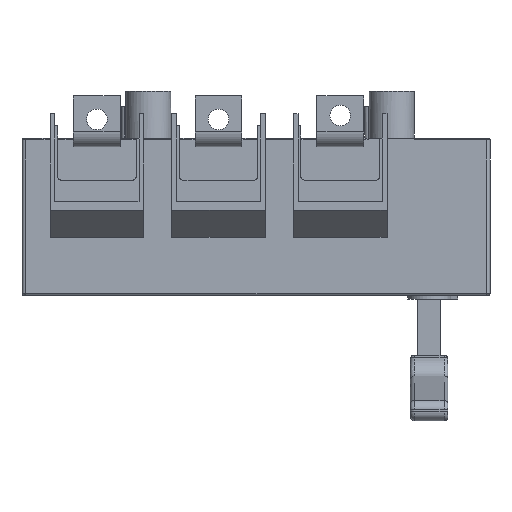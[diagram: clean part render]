
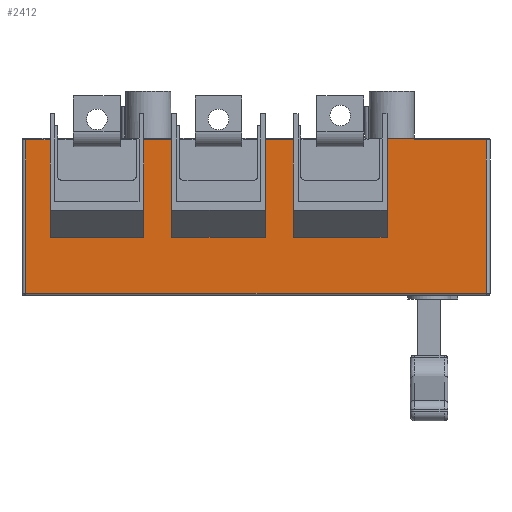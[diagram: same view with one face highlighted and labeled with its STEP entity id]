
A CAD part, front view. The second image highlights one B-rep face of the part: STEP entity #2412.
In plain terms, the highlighted planar face has unit normal (0, -1, 0).
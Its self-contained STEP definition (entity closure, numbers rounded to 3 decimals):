
#63=PLANE('',#8213);
#339=FACE_OUTER_BOUND('',#3114,.T.);
#698=LINE('',#11253,#1551);
#748=LINE('',#11389,#1601);
#785=LINE('',#11473,#1638);
#786=LINE('',#11476,#1639);
#787=LINE('',#11477,#1640);
#788=LINE('',#11479,#1641);
#789=LINE('',#11481,#1642);
#790=LINE('',#11483,#1643);
#791=LINE('',#11485,#1644);
#792=LINE('',#11487,#1645);
#793=LINE('',#11489,#1646);
#794=LINE('',#11491,#1647);
#795=LINE('',#11493,#1648);
#796=LINE('',#11495,#1649);
#797=LINE('',#11497,#1650);
#798=LINE('',#11499,#1651);
#799=LINE('',#11501,#1652);
#800=LINE('',#11502,#1653);
#1551=VECTOR('',#8927,1.);
#1601=VECTOR('',#9011,1.);
#1638=VECTOR('',#9070,1.);
#1639=VECTOR('',#9071,1.);
#1640=VECTOR('',#9072,1.);
#1641=VECTOR('',#9073,1.);
#1642=VECTOR('',#9074,1.);
#1643=VECTOR('',#9075,1.);
#1644=VECTOR('',#9076,1.);
#1645=VECTOR('',#9077,1.);
#1646=VECTOR('',#9078,1.);
#1647=VECTOR('',#9079,1.);
#1648=VECTOR('',#9080,1.);
#1649=VECTOR('',#9081,1.);
#1650=VECTOR('',#9082,1.);
#1651=VECTOR('',#9083,1.);
#1652=VECTOR('',#9084,1.);
#1653=VECTOR('',#9085,1.);
#2412=ADVANCED_FACE('',(#339),#63,.T.);
#3114=EDGE_LOOP('',(#3731,#3732,#3733,#3734,#3735,#3736,#3737,#3738,#3739,
#3740,#3741,#3742,#3743,#3744,#3745,#3746,#3747,#3748));
#3731=ORIENTED_EDGE('',*,*,#6808,.F.);
#3732=ORIENTED_EDGE('',*,*,#6809,.T.);
#3733=ORIENTED_EDGE('',*,*,#6765,.T.);
#3734=ORIENTED_EDGE('',*,*,#6810,.F.);
#3735=ORIENTED_EDGE('',*,*,#6811,.F.);
#3736=ORIENTED_EDGE('',*,*,#6812,.T.);
#3737=ORIENTED_EDGE('',*,*,#6813,.T.);
#3738=ORIENTED_EDGE('',*,*,#6814,.F.);
#3739=ORIENTED_EDGE('',*,*,#6815,.T.);
#3740=ORIENTED_EDGE('',*,*,#6816,.T.);
#3741=ORIENTED_EDGE('',*,*,#6817,.T.);
#3742=ORIENTED_EDGE('',*,*,#6818,.T.);
#3743=ORIENTED_EDGE('',*,*,#6819,.F.);
#3744=ORIENTED_EDGE('',*,*,#6820,.F.);
#3745=ORIENTED_EDGE('',*,*,#6821,.F.);
#3746=ORIENTED_EDGE('',*,*,#6822,.T.);
#3747=ORIENTED_EDGE('',*,*,#6703,.T.);
#3748=ORIENTED_EDGE('',*,*,#6823,.F.);
#5935=VERTEX_POINT('',#11252);
#5936=VERTEX_POINT('',#11254);
#5988=VERTEX_POINT('',#11388);
#5989=VERTEX_POINT('',#11390);
#6025=VERTEX_POINT('',#11474);
#6026=VERTEX_POINT('',#11475);
#6027=VERTEX_POINT('',#11478);
#6028=VERTEX_POINT('',#11480);
#6029=VERTEX_POINT('',#11482);
#6030=VERTEX_POINT('',#11484);
#6031=VERTEX_POINT('',#11486);
#6032=VERTEX_POINT('',#11488);
#6033=VERTEX_POINT('',#11490);
#6034=VERTEX_POINT('',#11492);
#6035=VERTEX_POINT('',#11494);
#6036=VERTEX_POINT('',#11496);
#6037=VERTEX_POINT('',#11498);
#6038=VERTEX_POINT('',#11500);
#6703=EDGE_CURVE('',#5936,#5935,#698,.T.);
#6765=EDGE_CURVE('',#5989,#5988,#748,.T.);
#6808=EDGE_CURVE('',#6025,#6026,#785,.T.);
#6809=EDGE_CURVE('',#6025,#5989,#786,.T.);
#6810=EDGE_CURVE('',#6027,#5988,#787,.T.);
#6811=EDGE_CURVE('',#6028,#6027,#788,.T.);
#6812=EDGE_CURVE('',#6028,#6029,#789,.T.);
#6813=EDGE_CURVE('',#6029,#6030,#790,.T.);
#6814=EDGE_CURVE('',#6031,#6030,#791,.T.);
#6815=EDGE_CURVE('',#6031,#6032,#792,.T.);
#6816=EDGE_CURVE('',#6032,#6033,#793,.T.);
#6817=EDGE_CURVE('',#6033,#6034,#794,.T.);
#6818=EDGE_CURVE('',#6034,#6035,#795,.T.);
#6819=EDGE_CURVE('',#6036,#6035,#796,.T.);
#6820=EDGE_CURVE('',#6037,#6036,#797,.T.);
#6821=EDGE_CURVE('',#6038,#6037,#798,.T.);
#6822=EDGE_CURVE('',#6038,#5936,#799,.T.);
#6823=EDGE_CURVE('',#6026,#5935,#800,.T.);
#8213=AXIS2_PLACEMENT_3D('',#11503,#9086,#9087);
#8927=DIRECTION('',(-1.,0.,0.));
#9011=DIRECTION('',(-1.,0.,0.));
#9070=DIRECTION('',(1.,0.,0.));
#9071=DIRECTION('',(0.,0.,1.));
#9072=DIRECTION('',(0.,0.,1.));
#9073=DIRECTION('',(1.,0.,0.));
#9074=DIRECTION('',(0.,0.,1.));
#9075=DIRECTION('',(-1.,0.,0.));
#9076=DIRECTION('',(0.,0.,1.));
#9077=DIRECTION('',(1.,0.,0.));
#9078=DIRECTION('',(0.,0.,1.));
#9079=DIRECTION('',(-1.,0.,0.));
#9080=DIRECTION('',(0.,0.,1.));
#9081=DIRECTION('',(1.,0.,0.));
#9082=DIRECTION('',(0.,0.,1.));
#9083=DIRECTION('',(1.,0.,0.));
#9084=DIRECTION('',(0.,0.,1.));
#9085=DIRECTION('',(0.,0.,1.));
#9086=DIRECTION('',(0.,-1.,0.));
#9087=DIRECTION('',(1.,0.,0.));
#11252=CARTESIAN_POINT('',(-67.5,-52.5,-1.));
#11253=CARTESIAN_POINT('',(-195.5,-52.5,-1.));
#11254=CARTESIAN_POINT('',(-52.5,-52.5,-1.));
#11388=CARTESIAN_POINT('',(-132.5,-52.5,-1.));
#11389=CARTESIAN_POINT('',(-195.5,-52.5,-1.));
#11390=CARTESIAN_POINT('',(-117.5,-52.5,-1.));
#11473=CARTESIAN_POINT('',(-117.5,-52.5,-53.));
#11474=CARTESIAN_POINT('',(-117.5,-52.5,-53.));
#11475=CARTESIAN_POINT('',(-67.5,-52.5,-53.));
#11476=CARTESIAN_POINT('',(-117.5,-52.5,-53.));
#11477=CARTESIAN_POINT('',(-132.5,-52.5,-53.));
#11478=CARTESIAN_POINT('',(-132.5,-52.5,-53.));
#11479=CARTESIAN_POINT('',(-182.5,-52.5,-53.));
#11480=CARTESIAN_POINT('',(-182.5,-52.5,-53.));
#11481=CARTESIAN_POINT('',(-182.5,-52.5,-53.));
#11482=CARTESIAN_POINT('',(-182.5,-52.5,-1.));
#11483=CARTESIAN_POINT('',(-195.5,-52.5,-1.));
#11484=CARTESIAN_POINT('',(-195.5,-52.5,-1.));
#11485=CARTESIAN_POINT('',(-195.5,-52.5,-84.));
#11486=CARTESIAN_POINT('',(-195.5,-52.5,-83.));
#11487=CARTESIAN_POINT('',(-12.,-52.5,-83.));
#11488=CARTESIAN_POINT('',(50.5,-52.5,-83.));
#11489=CARTESIAN_POINT('',(50.5,-52.5,-84.));
#11490=CARTESIAN_POINT('',(50.5,-52.5,-1.));
#11491=CARTESIAN_POINT('',(12.,-52.5,-1.));
#11492=CARTESIAN_POINT('',(12.,-52.5,-1.));
#11493=CARTESIAN_POINT('',(12.,-52.5,4.));
#11494=CARTESIAN_POINT('',(12.,-52.5,0.));
#11495=CARTESIAN_POINT('',(50.5,-52.5,0.));
#11496=CARTESIAN_POINT('',(-2.5,-52.5,0.));
#11497=CARTESIAN_POINT('',(-2.5,-52.5,-53.));
#11498=CARTESIAN_POINT('',(-2.5,-52.5,-53.));
#11499=CARTESIAN_POINT('',(-52.5,-52.5,-53.));
#11500=CARTESIAN_POINT('',(-52.5,-52.5,-53.));
#11501=CARTESIAN_POINT('',(-52.5,-52.5,-53.));
#11502=CARTESIAN_POINT('',(-67.5,-52.5,-53.));
#11503=CARTESIAN_POINT('',(-12.,-52.5,4.));
